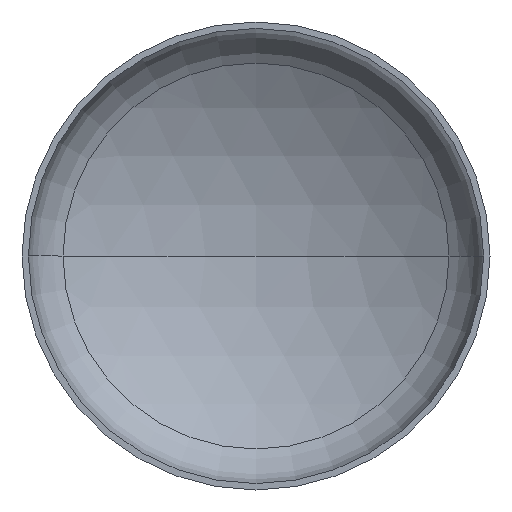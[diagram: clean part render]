
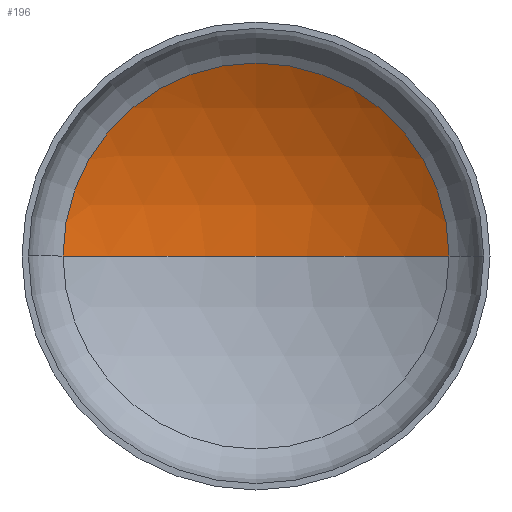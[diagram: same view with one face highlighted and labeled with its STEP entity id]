
A CAD part, front view. The second image highlights one B-rep face of the part: STEP entity #196.
In plain terms, the highlighted spherical face has radius 1520 mm.
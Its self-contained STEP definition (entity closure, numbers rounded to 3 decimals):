
#1 = ORIENTED_EDGE ( 'NONE', *, *, #134, .T. ) ;
#4 = VERTEX_POINT ( 'NONE', #163 ) ;
#40 = AXIS2_PLACEMENT_3D ( 'NONE', #186, #160, #240 ) ;
#42 = AXIS2_PLACEMENT_3D ( 'NONE', #140, #284, #192 ) ;
#44 = AXIS2_PLACEMENT_3D ( 'NONE', #336, #199, #363 ) ;
#48 = ORIENTED_EDGE ( 'NONE', *, *, #142, .F. ) ;
#49 = EDGE_LOOP ( 'NONE', ( #48, #1, #152 ) ) ;
#52 = AXIS2_PLACEMENT_3D ( 'NONE', #145, #246, #400 ) ;
#78 = VERTEX_POINT ( 'NONE', #260 ) ;
#103 = VERTEX_POINT ( 'NONE', #303 ) ;
#118 = EDGE_CURVE ( 'NONE', #103, #4, #339, .T. ) ;
#134 = EDGE_CURVE ( 'NONE', #78, #103, #159, .T. ) ;
#136 = SPHERICAL_SURFACE ( 'NONE', #40, 1520. ) ;
#140 = CARTESIAN_POINT ( 'NONE',  ( 0., -969.013, 0. ) ) ;
#142 = EDGE_CURVE ( 'NONE', #78, #4, #214, .T. ) ;
#145 = CARTESIAN_POINT ( 'NONE',  ( 0., 333.507, 0. ) ) ;
#152 = ORIENTED_EDGE ( 'NONE', *, *, #118, .T. ) ;
#159 = CIRCLE ( 'NONE', #44, 1520. ) ;
#160 = DIRECTION ( 'NONE',  ( 0., 0., -1. ) ) ;
#163 = CARTESIAN_POINT ( 'NONE',  ( -783.48, 333.507, 0. ) ) ;
#186 = CARTESIAN_POINT ( 'NONE',  ( 0., -969.013, 0. ) ) ;
#192 = DIRECTION ( 'NONE',  ( 1., 0., 0. ) ) ;
#196 = ADVANCED_FACE ( 'NONE', ( #272 ), #136, .F. ) ;
#199 = DIRECTION ( 'NONE',  ( 0., 0., -1. ) ) ;
#214 = CIRCLE ( 'NONE', #42, 1520. ) ;
#240 = DIRECTION ( 'NONE',  ( -1., 0., 0. ) ) ;
#246 = DIRECTION ( 'NONE',  ( 0., -1., 0. ) ) ;
#260 = CARTESIAN_POINT ( 'NONE',  ( 0., 550.987, 0. ) ) ;
#272 = FACE_OUTER_BOUND ( 'NONE', #49, .T. ) ;
#284 = DIRECTION ( 'NONE',  ( 0., 0., 1. ) ) ;
#303 = CARTESIAN_POINT ( 'NONE',  ( 783.48, 333.507, 0. ) ) ;
#336 = CARTESIAN_POINT ( 'NONE',  ( 0., -969.013, 0. ) ) ;
#339 = CIRCLE ( 'NONE', #52, 783.48 ) ;
#363 = DIRECTION ( 'NONE',  ( -1., 0., 0. ) ) ;
#400 = DIRECTION ( 'NONE',  ( 1., 0., 0. ) ) ;
